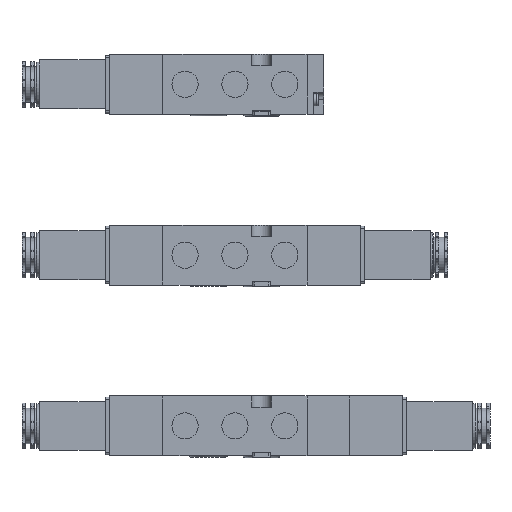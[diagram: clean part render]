
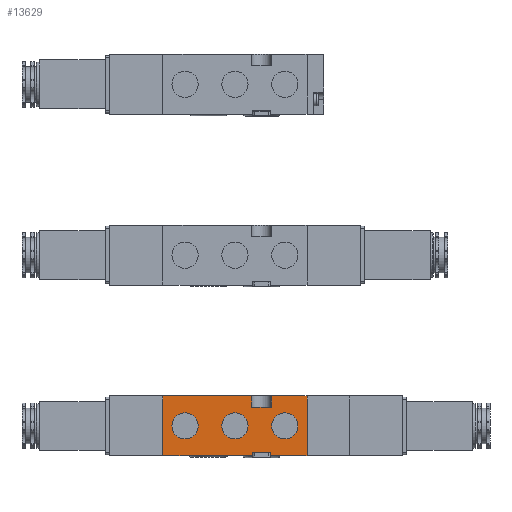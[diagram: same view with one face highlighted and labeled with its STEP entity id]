
A CAD part, front view. The second image highlights one B-rep face of the part: STEP entity #13629.
In plain terms, the highlighted planar face has unit normal (0, -1, 0).
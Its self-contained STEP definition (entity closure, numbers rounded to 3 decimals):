
#315 = VECTOR ( 'NONE', #3932, 1000. ) ;
#433 = CARTESIAN_POINT ( 'NONE',  ( 16.5, -20., 3.815 ) ) ;
#839 = VERTEX_POINT ( 'NONE', #14220 ) ;
#1175 = CARTESIAN_POINT ( 'NONE',  ( 22.5, -20., -5.9 ) ) ;
#1411 = VERTEX_POINT ( 'NONE', #19543 ) ;
#1496 = ORIENTED_EDGE ( 'NONE', *, *, #11998, .F. ) ;
#1501 = VECTOR ( 'NONE', #5691, 1000. ) ;
#1619 = DIRECTION ( 'NONE',  ( 0., 0., -1. ) ) ;
#1640 = ORIENTED_EDGE ( 'NONE', *, *, #6027, .F. ) ;
#1648 = CARTESIAN_POINT ( 'NONE',  ( 16., -20., -11.8 ) ) ;
#1717 = LINE ( 'NONE', #15005, #10786 ) ;
#1762 = VECTOR ( 'NONE', #22251, 1000. ) ;
#1773 = CARTESIAN_POINT ( 'NONE',  ( -32.5, -20., 13.5 ) ) ;
#2001 = EDGE_CURVE ( 'NONE', #22747, #22747, #16898, .T. ) ;
#2208 = CIRCLE ( 'NONE', #3466, 5.9 ) ;
#2838 = ORIENTED_EDGE ( 'NONE', *, *, #7891, .T. ) ;
#2853 = CARTESIAN_POINT ( 'NONE',  ( 16., -20., 3.041 ) ) ;
#3226 = EDGE_LOOP ( 'NONE', ( #9300 ) ) ;
#3379 = CARTESIAN_POINT ( 'NONE',  ( -22.5, -20., -5.9 ) ) ;
#3466 = AXIS2_PLACEMENT_3D ( 'NONE', #8888, #21629, #10723 ) ;
#3532 = VERTEX_POINT ( 'NONE', #15275 ) ;
#3650 = EDGE_CURVE ( 'NONE', #839, #15014, #20489, .T. ) ;
#3696 = FACE_BOUND ( 'NONE', #20956, .T. ) ;
#3729 = AXIS2_PLACEMENT_3D ( 'NONE', #19910, #9028, #21763 ) ;
#3783 = VERTEX_POINT ( 'NONE', #10673 ) ;
#3932 = DIRECTION ( 'NONE',  ( 0., 0., 1. ) ) ;
#4028 = EDGE_CURVE ( 'NONE', #12105, #3783, #1717, .T. ) ;
#4072 = DIRECTION ( 'NONE',  ( 1., 0., 0. ) ) ;
#4271 = VECTOR ( 'NONE', #13836, 1000. ) ;
#4272 = ORIENTED_EDGE ( 'NONE', *, *, #22732, .F. ) ;
#4645 = CARTESIAN_POINT ( 'NONE',  ( 8., -20., -11.8 ) ) ;
#5301 = EDGE_CURVE ( 'NONE', #6439, #839, #16680, .T. ) ;
#5317 = EDGE_LOOP ( 'NONE', ( #2838, #13060, #4272, #5970, #11143, #8204, #13716, #8078, #1496, #7552, #16099, #6893 ) ) ;
#5691 = DIRECTION ( 'NONE',  ( 0., 0., -1. ) ) ;
#5965 = VERTEX_POINT ( 'NONE', #3379 ) ;
#5970 = ORIENTED_EDGE ( 'NONE', *, *, #12903, .F. ) ;
#6027 = EDGE_CURVE ( 'NONE', #10216, #10216, #2208, .T. ) ;
#6075 = CARTESIAN_POINT ( 'NONE',  ( 7.5, -20., 8.5 ) ) ;
#6439 = VERTEX_POINT ( 'NONE', #4645 ) ;
#6653 = CARTESIAN_POINT ( 'NONE',  ( 7.5, -20., 13.5 ) ) ;
#6893 = ORIENTED_EDGE ( 'NONE', *, *, #21807, .F. ) ;
#7196 = VECTOR ( 'NONE', #11277, 1000. ) ;
#7552 = ORIENTED_EDGE ( 'NONE', *, *, #3650, .F. ) ;
#7558 = VECTOR ( 'NONE', #7947, 1000. ) ;
#7665 = CARTESIAN_POINT ( 'NONE',  ( -32.5, -20., 13.5 ) ) ;
#7891 = EDGE_CURVE ( 'NONE', #1411, #14311, #18876, .T. ) ;
#7947 = DIRECTION ( 'NONE',  ( 0., 0., -1. ) ) ;
#8063 = ORIENTED_EDGE ( 'NONE', *, *, #12763, .F. ) ;
#8078 = ORIENTED_EDGE ( 'NONE', *, *, #9296, .F. ) ;
#8204 = ORIENTED_EDGE ( 'NONE', *, *, #4028, .F. ) ;
#8523 = FACE_BOUND ( 'NONE', #14358, .T. ) ;
#8888 = CARTESIAN_POINT ( 'NONE',  ( 0., -20., 0. ) ) ;
#9028 = DIRECTION ( 'NONE',  ( 0., -1., 0. ) ) ;
#9099 = FACE_OUTER_BOUND ( 'NONE', #5317, .T. ) ;
#9296 = EDGE_CURVE ( 'NONE', #3532, #12672, #12645, .T. ) ;
#9300 = ORIENTED_EDGE ( 'NONE', *, *, #2001, .F. ) ;
#9384 = CARTESIAN_POINT ( 'NONE',  ( -32.5, -20., 13.5 ) ) ;
#9547 = DIRECTION ( 'NONE',  ( 1., 0., 0. ) ) ;
#9663 = VECTOR ( 'NONE', #11202, 1000. ) ;
#9781 = VECTOR ( 'NONE', #10132, 1000. ) ;
#10132 = DIRECTION ( 'NONE',  ( 0., 0., -1. ) ) ;
#10216 = VERTEX_POINT ( 'NONE', #14004 ) ;
#10331 = LINE ( 'NONE', #13544, #19423 ) ;
#10417 = AXIS2_PLACEMENT_3D ( 'NONE', #23398, #12479, #1619 ) ;
#10605 = CARTESIAN_POINT ( 'NONE',  ( 22.5, -20., 0. ) ) ;
#10652 = EDGE_CURVE ( 'NONE', #19698, #14311, #10331, .T. ) ;
#10673 = CARTESIAN_POINT ( 'NONE',  ( 16.5, -20., 8.5 ) ) ;
#10723 = DIRECTION ( 'NONE',  ( 0., 0., -1. ) ) ;
#10775 = PLANE ( 'NONE',  #3729 ) ;
#10786 = VECTOR ( 'NONE', #9547, 1000. ) ;
#11125 = LINE ( 'NONE', #14760, #1501 ) ;
#11143 = ORIENTED_EDGE ( 'NONE', *, *, #15941, .F. ) ;
#11202 = DIRECTION ( 'NONE',  ( 1., 0., 0. ) ) ;
#11277 = DIRECTION ( 'NONE',  ( 0., 0., 1. ) ) ;
#11998 = EDGE_CURVE ( 'NONE', #15014, #3532, #16231, .T. ) ;
#12049 = LINE ( 'NONE', #433, #7196 ) ;
#12105 = VERTEX_POINT ( 'NONE', #6075 ) ;
#12425 = DIRECTION ( 'NONE',  ( 0., 0., -1. ) ) ;
#12479 = DIRECTION ( 'NONE',  ( 0., -1., 0. ) ) ;
#12645 = LINE ( 'NONE', #1773, #17474 ) ;
#12672 = VERTEX_POINT ( 'NONE', #6653 ) ;
#12763 = EDGE_CURVE ( 'NONE', #5965, #5965, #13636, .T. ) ;
#12903 = EDGE_CURVE ( 'NONE', #23427, #15246, #13909, .T. ) ;
#13060 = ORIENTED_EDGE ( 'NONE', *, *, #10652, .F. ) ;
#13148 = CARTESIAN_POINT ( 'NONE',  ( 16.5, -20., 13.5 ) ) ;
#13544 = CARTESIAN_POINT ( 'NONE',  ( -32.5, -20., -13.5 ) ) ;
#13629 = ADVANCED_FACE ( 'NONE', ( #22472, #3696, #8523, #9099 ), #10775, .T. ) ;
#13636 = CIRCLE ( 'NONE', #10417, 5.9 ) ;
#13716 = ORIENTED_EDGE ( 'NONE', *, *, #13749, .T. ) ;
#13749 = EDGE_CURVE ( 'NONE', #12105, #12672, #14193, .T. ) ;
#13836 = DIRECTION ( 'NONE',  ( -1., 0., 0. ) ) ;
#13909 = LINE ( 'NONE', #9384, #9663 ) ;
#14004 = CARTESIAN_POINT ( 'NONE',  ( 0., -20., -5.9 ) ) ;
#14193 = LINE ( 'NONE', #14800, #315 ) ;
#14220 = CARTESIAN_POINT ( 'NONE',  ( 8., -20., -13.5 ) ) ;
#14311 = VERTEX_POINT ( 'NONE', #21966 ) ;
#14358 = EDGE_LOOP ( 'NONE', ( #1640 ) ) ;
#14760 = CARTESIAN_POINT ( 'NONE',  ( 32.5, -20., 13.5 ) ) ;
#14800 = CARTESIAN_POINT ( 'NONE',  ( 7.5, -20., 3.815 ) ) ;
#15005 = CARTESIAN_POINT ( 'NONE',  ( 0., -20., 8.5 ) ) ;
#15014 = VERTEX_POINT ( 'NONE', #17659 ) ;
#15246 = VERTEX_POINT ( 'NONE', #16541 ) ;
#15275 = CARTESIAN_POINT ( 'NONE',  ( -32.5, -20., 13.5 ) ) ;
#15835 = CARTESIAN_POINT ( 'NONE',  ( 32.5, -20., -13.5 ) ) ;
#15941 = EDGE_CURVE ( 'NONE', #3783, #23427, #12049, .T. ) ;
#16099 = ORIENTED_EDGE ( 'NONE', *, *, #5301, .F. ) ;
#16231 = LINE ( 'NONE', #7665, #1762 ) ;
#16541 = CARTESIAN_POINT ( 'NONE',  ( 32.5, -20., 13.5 ) ) ;
#16680 = LINE ( 'NONE', #17006, #7558 ) ;
#16898 = CIRCLE ( 'NONE', #21942, 5.9 ) ;
#17006 = CARTESIAN_POINT ( 'NONE',  ( 8., -20., 3.041 ) ) ;
#17187 = DIRECTION ( 'NONE',  ( -1., 0., 0. ) ) ;
#17474 = VECTOR ( 'NONE', #4072, 1000. ) ;
#17659 = CARTESIAN_POINT ( 'NONE',  ( -32.5, -20., -13.5 ) ) ;
#18876 = LINE ( 'NONE', #2853, #9781 ) ;
#19423 = VECTOR ( 'NONE', #17187, 1000. ) ;
#19543 = CARTESIAN_POINT ( 'NONE',  ( 16., -20., -11.8 ) ) ;
#19698 = VERTEX_POINT ( 'NONE', #15835 ) ;
#19910 = CARTESIAN_POINT ( 'NONE',  ( 0., -20., 0. ) ) ;
#20489 = LINE ( 'NONE', #21180, #4271 ) ;
#20956 = EDGE_LOOP ( 'NONE', ( #8063 ) ) ;
#21180 = CARTESIAN_POINT ( 'NONE',  ( -32.5, -20., -13.5 ) ) ;
#21629 = DIRECTION ( 'NONE',  ( 0., -1., 0. ) ) ;
#21763 = DIRECTION ( 'NONE',  ( 0., 0., -1. ) ) ;
#21807 = EDGE_CURVE ( 'NONE', #1411, #6439, #23424, .T. ) ;
#21942 = AXIS2_PLACEMENT_3D ( 'NONE', #10605, #23346, #12425 ) ;
#21966 = CARTESIAN_POINT ( 'NONE',  ( 16., -20., -13.5 ) ) ;
#22251 = DIRECTION ( 'NONE',  ( 0., 0., 1. ) ) ;
#22472 = FACE_BOUND ( 'NONE', #3226, .T. ) ;
#22732 = EDGE_CURVE ( 'NONE', #15246, #19698, #11125, .T. ) ;
#22747 = VERTEX_POINT ( 'NONE', #1175 ) ;
#22834 = VECTOR ( 'NONE', #23421, 1000. ) ;
#23346 = DIRECTION ( 'NONE',  ( 0., -1., 0. ) ) ;
#23398 = CARTESIAN_POINT ( 'NONE',  ( -22.5, -20., 0. ) ) ;
#23421 = DIRECTION ( 'NONE',  ( -1., 0., 0. ) ) ;
#23424 = LINE ( 'NONE', #1648, #22834 ) ;
#23427 = VERTEX_POINT ( 'NONE', #13148 ) ;
